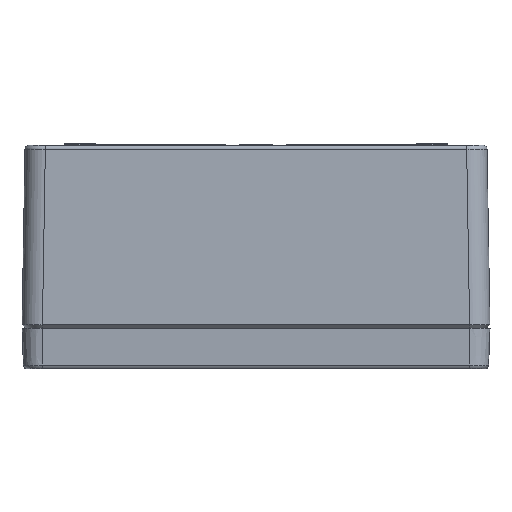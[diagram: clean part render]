
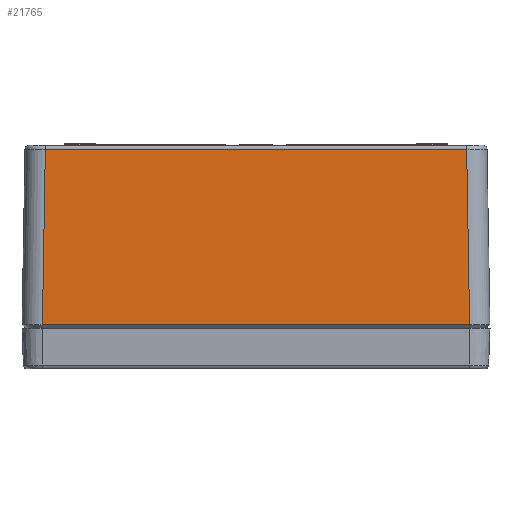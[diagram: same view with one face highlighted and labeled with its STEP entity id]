
A CAD part, left-side view. The second image highlights one B-rep face of the part: STEP entity #21765.
In plain terms, the highlighted planar face has unit normal (-1, 0, 0.017) as drawn and (-1, -0.017, 0) by its records, which use the part's own axes.
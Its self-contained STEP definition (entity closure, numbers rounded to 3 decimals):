
#1542=PLANE('',#23626);
#2332=FACE_OUTER_BOUND('',#3727,.T.);
#3727=EDGE_LOOP('',(#16234,#16235,#16236,#16237));
#4861=LINE('',#31058,#6658);
#5435=LINE('',#34614,#7232);
#5436=LINE('',#34616,#7233);
#5437=LINE('',#34617,#7234);
#6658=VECTOR('',#25162,1000.);
#7232=VECTOR('',#27054,1000.);
#7233=VECTOR('',#27055,1000.);
#7234=VECTOR('',#27056,1000.);
#9361=VERTEX_POINT('',#30927);
#9367=VERTEX_POINT('',#31056);
#10012=VERTEX_POINT('',#34613);
#10013=VERTEX_POINT('',#34615);
#11453=EDGE_CURVE('',#9361,#9367,#4861,.T.);
#12385=EDGE_CURVE('',#10012,#9361,#5435,.T.);
#12386=EDGE_CURVE('',#9367,#10013,#5436,.T.);
#12387=EDGE_CURVE('',#10013,#10012,#5437,.T.);
#16234=ORIENTED_EDGE('',*,*,#12385,.T.);
#16235=ORIENTED_EDGE('',*,*,#11453,.T.);
#16236=ORIENTED_EDGE('',*,*,#12386,.T.);
#16237=ORIENTED_EDGE('',*,*,#12387,.T.);
#21765=ADVANCED_FACE('',(#2332),#1542,.T.);
#23626=AXIS2_PLACEMENT_3D('',#34612,#27052,#27053);
#25162=DIRECTION('',(0.,0.,1.));
#27052=DIRECTION('center_axis',(-1.,-0.017,0.));
#27053=DIRECTION('ref_axis',(-0.017,1.,0.));
#27054=DIRECTION('',(0.017,-1.,0.017));
#27055=DIRECTION('',(-0.017,1.,0.017));
#27056=DIRECTION('',(0.,0.,-1.));
#30927=CARTESIAN_POINT('',(-138.534,-88.033,-103.535));
#31056=CARTESIAN_POINT('',(-138.534,-88.033,103.535));
#31058=CARTESIAN_POINT('',(-138.534,-88.033,103.503));
#34612=CARTESIAN_POINT('Origin',(-140.,0.,
-115.));
#34613=CARTESIAN_POINT('',(-139.97,-1.788,-104.972));
#34614=CARTESIAN_POINT('',(-140.003,0.166,-105.004));
#34615=CARTESIAN_POINT('',(-139.97,-1.788,104.972));
#34616=CARTESIAN_POINT('',(-139.939,-3.661,104.94));
#34617=CARTESIAN_POINT('',(-139.97,-1.788,-115.));
